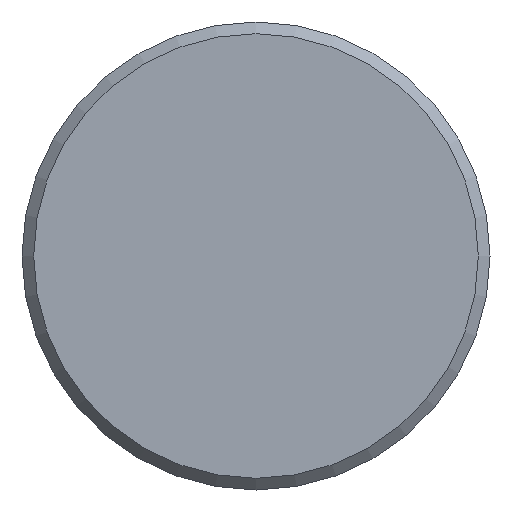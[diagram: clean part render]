
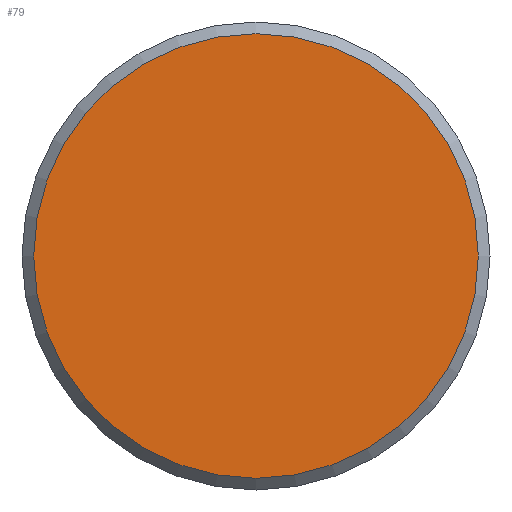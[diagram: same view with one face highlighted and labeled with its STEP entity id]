
A CAD part, front view. The second image highlights one B-rep face of the part: STEP entity #79.
In plain terms, the highlighted planar face has unit normal (0, -1, 0).
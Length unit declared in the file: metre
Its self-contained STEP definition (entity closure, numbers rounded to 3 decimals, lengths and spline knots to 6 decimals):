
#79 = ADVANCED_FACE( '', ( #92 ), #93, .T. );
#92 = FACE_OUTER_BOUND( '', #114, .T. );
#93 = PLANE( '', #115 );
#114 = EDGE_LOOP( '', ( #140 ) );
#115 = AXIS2_PLACEMENT_3D( '', #141, #142, #143 );
#140 = ORIENTED_EDGE( '', *, *, #171, .T. );
#141 = CARTESIAN_POINT( '', ( 0., 0., 0. ) );
#142 = DIRECTION( '', ( 0., -1., 0. ) );
#143 = DIRECTION( '', ( 0., 0., -1. ) );
#171 = EDGE_CURVE( '', #180, #180, #181, .T. );
#180 = VERTEX_POINT( '', #194 );
#181 = CIRCLE( '', #195, 0.038 );
#194 = CARTESIAN_POINT( '', ( 0., 0., -0.038 ) );
#195 = AXIS2_PLACEMENT_3D( '', #210, #211, #212 );
#210 = CARTESIAN_POINT( '', ( 0., 0., 0. ) );
#211 = DIRECTION( '', ( 0., -1., 0. ) );
#212 = DIRECTION( '', ( 0., 0., -1. ) );
